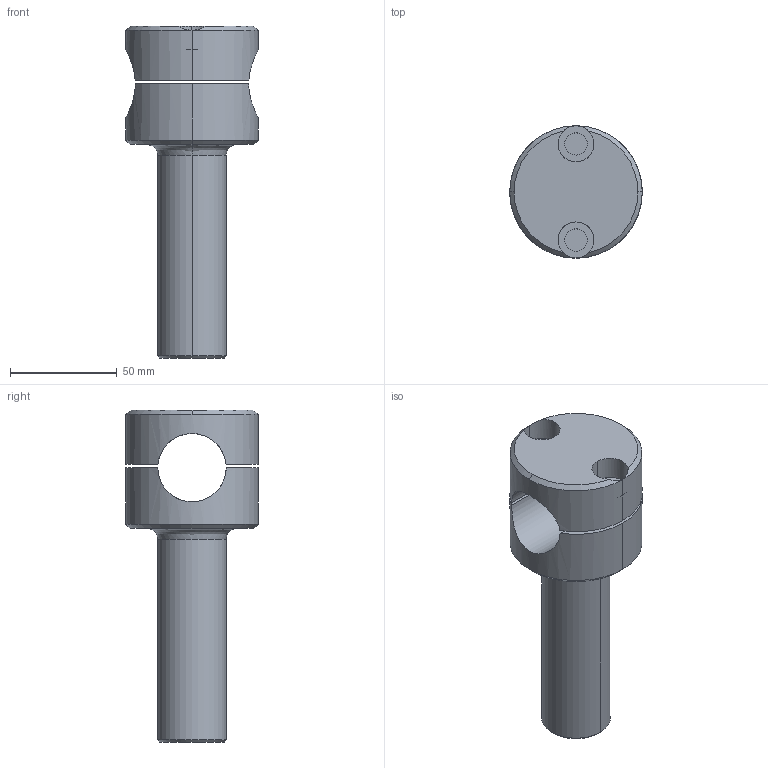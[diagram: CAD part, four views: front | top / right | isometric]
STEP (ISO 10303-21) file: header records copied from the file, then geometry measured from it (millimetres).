
FILE_DESCRIPTION( (''), '2;1');
FILE_NAME ('SY-2080-02_THB-3232.stp','2022-04-01T16:57:41',(''),(''),'spGate 18.9.3 (****-****-****-****)','','');
FILE_SCHEMA (('AUTOMOTIVE_DESIGN'));
Length unit declared in the file: millimetre
Products named in the file (3): Assembly; SY-2080-02_THB-3232-prt0; SY-2080-02_THB-3232-prt1
Assembly tree (2 placements, depth 2):
  Assembly
    SY-2080-02_THB-3232-prt0
    SY-2080-02_THB-3232-prt1
Bounding box: 62 x 62 x 155.5 mm (x, y, z)
Volume: 186200.6 mm3; surface area: 35588.3 mm2
Topology: 2 solids, 2 shells, 39 faces, 90 edges, 58 vertices
Faces by surface type: cylinder 20, plane 11, bspline 8
Entity records: 2226 total; most frequent: CARTESIAN_POINT 577, DIRECTION 182, ORIENTED_EDGE 180, COLOUR_RGB 131, PRESENTATION_STYLE_ASSIGNMENT 131, STYLED_ITEM 131, EDGE_CURVE 90, DRAUGHTING_PRE_DEFINED_CURVE_FONT 90
